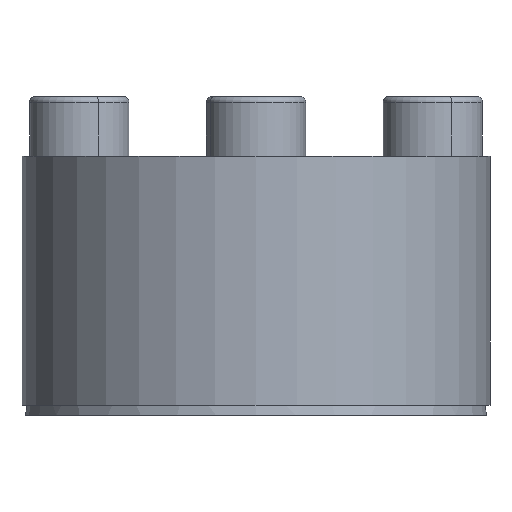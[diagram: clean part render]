
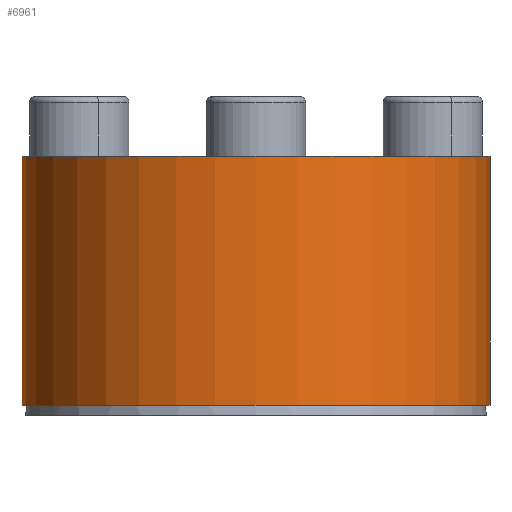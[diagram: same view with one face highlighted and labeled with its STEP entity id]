
A CAD part, front view. The second image highlights one B-rep face of the part: STEP entity #6961.
In plain terms, the highlighted cylindrical face has radius 23.5 mm (diameter 47 mm), a partial arc.
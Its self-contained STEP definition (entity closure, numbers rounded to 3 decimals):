
#278 = EDGE_CURVE ( 'NONE', #6177, #4650, #5136, .T. ) ;
#388 = CARTESIAN_POINT ( 'NONE',  ( 23.5, 0., 26.024 ) ) ;
#457 = ORIENTED_EDGE ( 'NONE', *, *, #1744, .F. ) ;
#726 = CIRCLE ( 'NONE', #4520, 23.5 ) ;
#1317 = AXIS2_PLACEMENT_3D ( 'NONE', #4988, #5549, #5574 ) ;
#1726 = ORIENTED_EDGE ( 'NONE', *, *, #278, .F. ) ;
#1744 = EDGE_CURVE ( 'NONE', #4650, #6859, #6821, .T. ) ;
#2306 = CARTESIAN_POINT ( 'NONE',  ( 23.5, 0., 1.024 ) ) ;
#2527 = VERTEX_POINT ( 'NONE', #388 ) ;
#2651 = LINE ( 'NONE', #2306, #4121 ) ;
#2896 = DIRECTION ( 'NONE',  ( 0., 0., -1. ) ) ;
#3383 = ORIENTED_EDGE ( 'NONE', *, *, #5620, .T. ) ;
#3987 = CARTESIAN_POINT ( 'NONE',  ( 23.5, 0., 1.024 ) ) ;
#4121 = VECTOR ( 'NONE', #4493, 1000. ) ;
#4259 = CARTESIAN_POINT ( 'NONE',  ( -23.5, 0., 1.024 ) ) ;
#4493 = DIRECTION ( 'NONE',  ( 0., 0., 1. ) ) ;
#4520 = AXIS2_PLACEMENT_3D ( 'NONE', #6225, #2896, #6761 ) ;
#4650 = VERTEX_POINT ( 'NONE', #4259 ) ;
#4981 = DIRECTION ( 'NONE',  ( -1., 0., 0. ) ) ;
#4988 = CARTESIAN_POINT ( 'NONE',  ( 0., 0., 1.024 ) ) ;
#4995 = DIRECTION ( 'NONE',  ( 0., 0., -1. ) ) ;
#5001 = CARTESIAN_POINT ( 'NONE',  ( 0., 0., 1.024 ) ) ;
#5136 = CIRCLE ( 'NONE', #7138, 23.5 ) ;
#5210 = CARTESIAN_POINT ( 'NONE',  ( -23.5, 0., 26.024 ) ) ;
#5268 = DIRECTION ( 'NONE',  ( 0., 0., 1. ) ) ;
#5402 = VECTOR ( 'NONE', #5268, 1000. ) ;
#5549 = DIRECTION ( 'NONE',  ( 0., 0., 1. ) ) ;
#5574 = DIRECTION ( 'NONE',  ( 1., 0., 0. ) ) ;
#5620 = EDGE_CURVE ( 'NONE', #2527, #6859, #726, .T. ) ;
#5691 = FACE_OUTER_BOUND ( 'NONE', #6164, .T. ) ;
#6164 = EDGE_LOOP ( 'NONE', ( #457, #1726, #6514, #3383 ) ) ;
#6177 = VERTEX_POINT ( 'NONE', #3987 ) ;
#6225 = CARTESIAN_POINT ( 'NONE',  ( 0., 0., 26.024 ) ) ;
#6349 = CARTESIAN_POINT ( 'NONE',  ( -23.5, 0., 1.024 ) ) ;
#6454 = CYLINDRICAL_SURFACE ( 'NONE', #1317, 23.5 ) ;
#6514 = ORIENTED_EDGE ( 'NONE', *, *, #6699, .T. ) ;
#6699 = EDGE_CURVE ( 'NONE', #6177, #2527, #2651, .T. ) ;
#6761 = DIRECTION ( 'NONE',  ( -1., 0., 0. ) ) ;
#6821 = LINE ( 'NONE', #6349, #5402 ) ;
#6859 = VERTEX_POINT ( 'NONE', #5210 ) ;
#6961 = ADVANCED_FACE ( 'NONE', ( #5691 ), #6454, .T. ) ;
#7138 = AXIS2_PLACEMENT_3D ( 'NONE', #5001, #4995, #4981 ) ;
